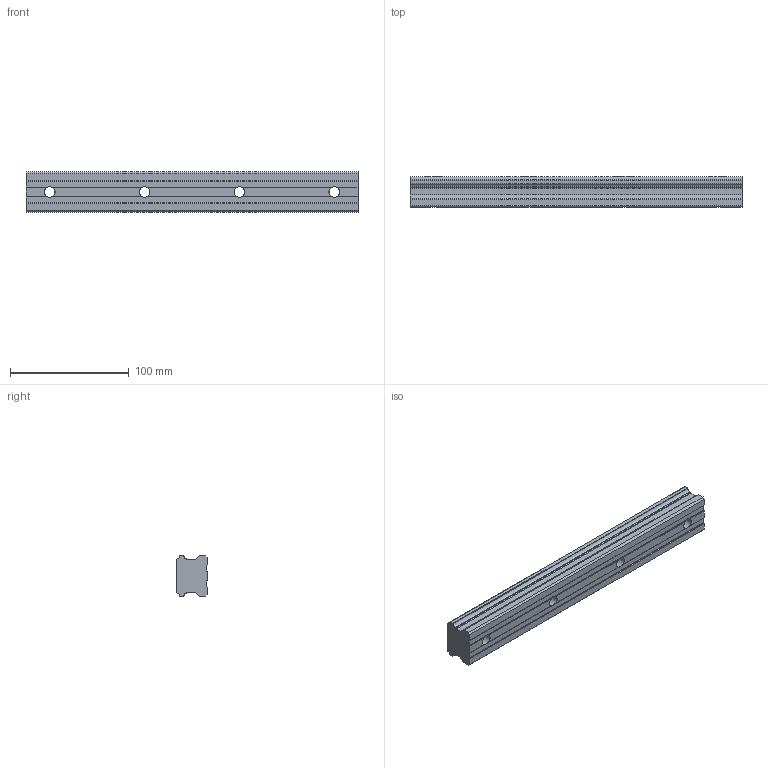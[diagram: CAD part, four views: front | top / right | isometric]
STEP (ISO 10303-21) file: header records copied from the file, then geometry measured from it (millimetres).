
FILE_DESCRIPTION(/* description */ ('STEP AP203'),/* implementation_level */ '2;1');
FILE_NAME(/* name */ 'SHS35-280L(GK) RAIL(20)',/* time_stamp */ '2024-05-14T03:42:19+02:00',/* author */ ('License CC BY-ND 4.0'),/* organization */ ('CADENAS'),/* preprocessor_version */ 'ST-DEVELOPER v19.3',/* originating_system */ 'PARTsolutions',/* authorisation */ ' ');
FILE_SCHEMA (('CONFIG_CONTROL_DESIGN'));
Length unit declared in the file: millimetre
Products named in the file (1): SHS35-280L(GK) RAIL(20)
Bounding box: 280 x 26 x 34 mm (x, y, z)
Volume: 211805.3 mm3; surface area: 38961.8 mm2
Topology: 1 solids, 1 shells, 78 faces, 228 edges, 152 vertices
Faces by surface type: plane 40, cylinder 38
Full cylindrical faces by diameter (mm): 9 x4, 14 x4
Entity records: 2606 total; most frequent: CARTESIAN_POINT 491, DIRECTION 446, ORIENTED_EDGE 432, EDGE_CURVE 216, AXIS2_PLACEMENT_3D 167, VERTEX_POINT 148, LINE 112, VECTOR 112
